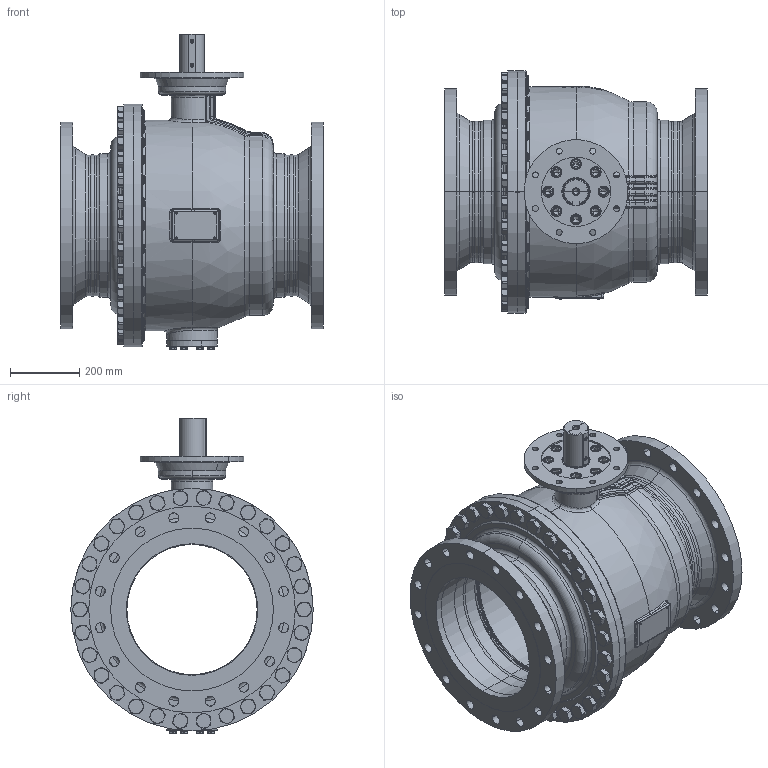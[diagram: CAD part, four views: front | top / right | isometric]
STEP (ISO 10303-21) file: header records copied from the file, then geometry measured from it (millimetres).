
FILE_DESCRIPTION((''),'2;1');
FILE_NAME('KHI-F_400_CL150-F25-P_SW0001','2026-02-05T16:19:08',('fischerkl'),('KLINGER'),'CREO PARAMETRIC BY PTC INC, 2023014','CREO PARAMETRIC BY PTC INC, 2023014','');
FILE_SCHEMA(('CONFIG_CONTROL_DESIGN'));
Products named in the file (1): KHI-F_400_CL150-F25-P_SW0001
Bounding box: 762 x 700 x 911.3 mm (x, y, z)
Volume: 56531798.3 mm3; surface area: 6873441.1 mm2
Topology: 1 solids, 4 shells, 3581 faces, 9022 edges, 5636 vertices
Faces by surface type: plane 1771, cylinder 861, cone 508, torus 311, bspline 99, sphere 31
Entity records: 153316 total; most frequent: CARTESIAN_POINT 68071, ORIENTED_EDGE 17992, DIRECTION 17656, EDGE_CURVE 8996, AXIS2_PLACEMENT_3D 6778, VERTEX_POINT 5636, VECTOR 4100, LINE 4100
